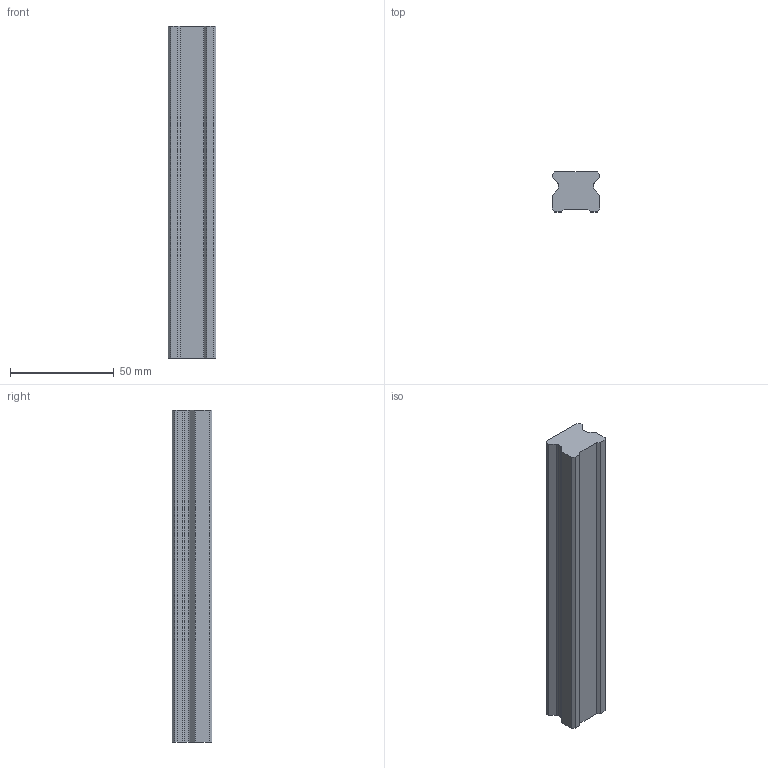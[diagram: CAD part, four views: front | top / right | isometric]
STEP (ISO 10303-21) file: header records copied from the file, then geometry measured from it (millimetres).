
FILE_DESCRIPTION (( 'STEP AP203' ), '1' );
FILE_NAME ('Default.step', '2019-06-13T08:33:43', ( '' ), ( '' ), 'SwSTEP 2.0', 'SolidWorks 2017', '' );
FILE_SCHEMA (( 'CONFIG_CONTROL_DESIGN' ));
Length unit declared in the file: millimetre
Products named in the file (1): Default
Bounding box: 23 x 19.2 x 160 mm (x, y, z)
Volume: 62183.1 mm3; surface area: 14717.1 mm2
Topology: 1 solids, 1 shells, 26 faces, 72 edges, 48 vertices
Faces by surface type: plane 22, cylinder 4
Entity records: 901 total; most frequent: CARTESIAN_POINT 147, ORIENTED_EDGE 144, DIRECTION 134, EDGE_CURVE 72, VECTOR 64, LINE 64, VERTEX_POINT 48, AXIS2_PLACEMENT_3D 35
